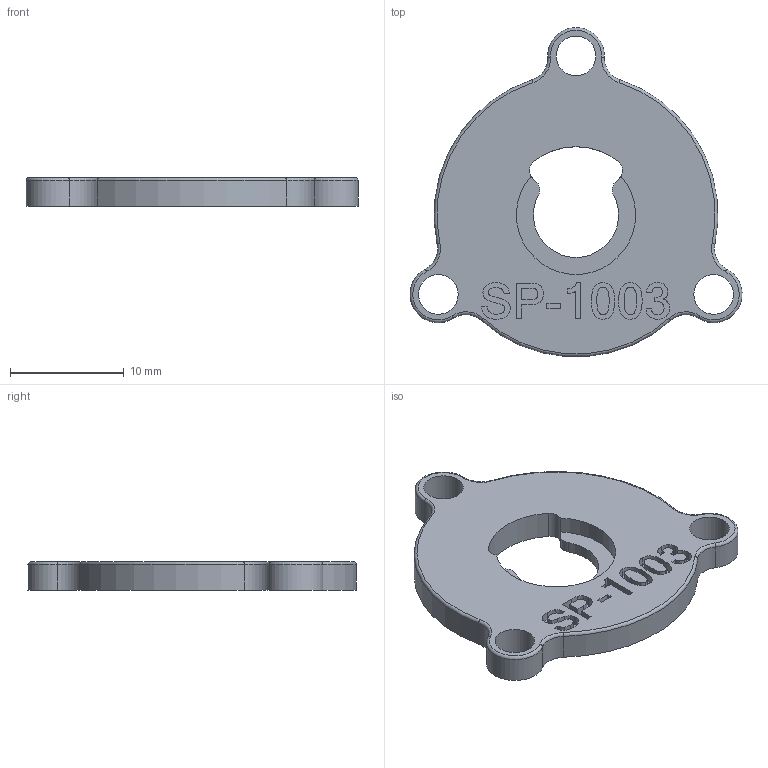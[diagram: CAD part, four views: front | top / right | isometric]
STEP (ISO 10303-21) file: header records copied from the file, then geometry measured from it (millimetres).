
FILE_DESCRIPTION(/* description */ ('Alibre Inc.'),/* implementation_level */ '2;1');
FILE_NAME(/* name */ 'export-30C67FC2-29C7-426F-8C72-63EDB20D2634',/* time_stamp */ '2020-08-19T17:23:18-05:00',/* author */ (''),/* organization */ (''),/* preprocessor_version */ 'ST-DEVELOPER v17',/* originating_system */ 'Alibre',/* authorisation */ '');
FILE_SCHEMA (('AUTOMOTIVE_DESIGN'));
Length unit declared in the file: millimetre
Bounding box: 29.24 x 28.95 x 2.5 mm (x, y, z)
Volume: 1074.5 mm3; surface area: 1372 mm2
Topology: 1 solids, 2 shells, 158 faces, 420 edges, 276 vertices
Faces by surface type: bspline 82, plane 41, cylinder 23, torus 12
Full cylindrical faces by diameter (mm): 0.262 x1, 3.5 x3
Entity records: 4947 total; most frequent: CARTESIAN_POINT 1581, ORIENTED_EDGE 832, EDGE_CURVE 416, DIRECTION 412, VERTEX_POINT 276, VECTOR 180, LINE 180, EDGE_LOOP 180
